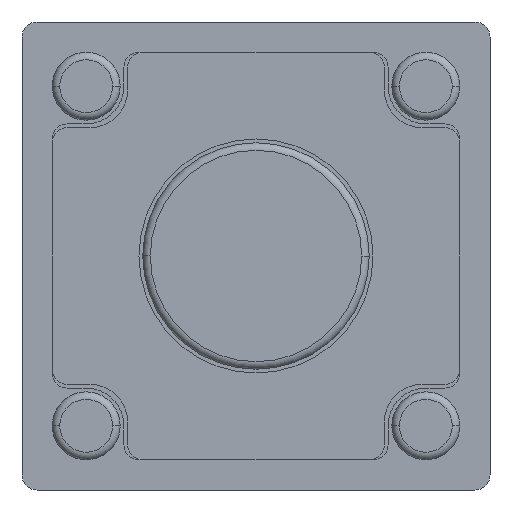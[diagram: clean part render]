
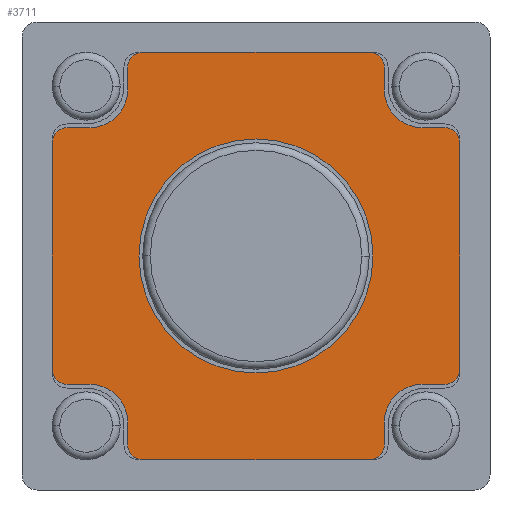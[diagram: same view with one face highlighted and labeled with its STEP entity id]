
A CAD part, front view. The second image highlights one B-rep face of the part: STEP entity #3711.
In plain terms, the highlighted planar face has unit normal (0, -1, 0).
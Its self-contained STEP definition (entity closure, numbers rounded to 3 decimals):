
#1518=CARTESIAN_POINT('',(0.,-1.8,0.));
#1519=DIRECTION('',(0.,1.,0.));
#1520=DIRECTION('',(-1.,0.,0.));
#1521=AXIS2_PLACEMENT_3D('',#1518,#1519,#1520);
#1526=CARTESIAN_POINT('',(0.,-1.8,0.));
#1527=DIRECTION('',(0.,1.,0.));
#1528=DIRECTION('',(1.,0.,0.));
#1529=AXIS2_PLACEMENT_3D('',#1526,#1527,#1528);
#1534=DIRECTION('',(1.,0.,0.));
#1535=VECTOR('',#1534,3.);
#1536=CARTESIAN_POINT('',(-1.5,-1.8,-2.7));
#1537=LINE('',#1536,#1535);
#1541=CARTESIAN_POINT('',(-1.5,-1.8,-2.5));
#1542=DIRECTION('',(0.,-1.,0.));
#1543=DIRECTION('',(-1.,0.,0.));
#1544=AXIS2_PLACEMENT_3D('',#1541,#1542,#1543);
#1549=DIRECTION('',(0.,0.,-1.));
#1550=VECTOR('',#1549,0.3);
#1551=CARTESIAN_POINT('',(-1.7,-1.8,-2.2));
#1552=LINE('',#1551,#1550);
#1556=CARTESIAN_POINT('',(-2.2,-1.8,-2.2));
#1557=DIRECTION('',(0.,1.,0.));
#1558=DIRECTION('',(0.,0.,1.));
#1559=AXIS2_PLACEMENT_3D('',#1556,#1557,#1558);
#1564=DIRECTION('',(1.,0.,0.));
#1565=VECTOR('',#1564,0.3);
#1566=CARTESIAN_POINT('',(-2.5,-1.8,-1.7));
#1567=LINE('',#1566,#1565);
#1571=CARTESIAN_POINT('',(-2.5,-1.8,-1.5));
#1572=DIRECTION('',(0.,-1.,0.));
#1573=DIRECTION('',(-1.,0.,0.));
#1574=AXIS2_PLACEMENT_3D('',#1571,#1572,#1573);
#1579=DIRECTION('',(0.,0.,-1.));
#1580=VECTOR('',#1579,3.);
#1581=CARTESIAN_POINT('',(-2.7,-1.8,1.5));
#1582=LINE('',#1581,#1580);
#1586=CARTESIAN_POINT('',(-2.5,-1.8,1.5));
#1587=DIRECTION('',(0.,-1.,0.));
#1588=DIRECTION('',(0.,0.,1.));
#1589=AXIS2_PLACEMENT_3D('',#1586,#1587,#1588);
#1594=DIRECTION('',(-1.,0.,0.));
#1595=VECTOR('',#1594,0.3);
#1596=CARTESIAN_POINT('',(-2.2,-1.8,1.7));
#1597=LINE('',#1596,#1595);
#1601=CARTESIAN_POINT('',(-2.2,-1.8,2.2));
#1602=DIRECTION('',(0.,1.,0.));
#1603=DIRECTION('',(1.,0.,0.));
#1604=AXIS2_PLACEMENT_3D('',#1601,#1602,#1603);
#1609=DIRECTION('',(0.,0.,-1.));
#1610=VECTOR('',#1609,0.3);
#1611=CARTESIAN_POINT('',(-1.7,-1.8,2.5));
#1612=LINE('',#1611,#1610);
#1616=CARTESIAN_POINT('',(-1.5,-1.8,2.5));
#1617=DIRECTION('',(0.,-1.,0.));
#1618=DIRECTION('',(0.,0.,1.));
#1619=AXIS2_PLACEMENT_3D('',#1616,#1617,#1618);
#1624=DIRECTION('',(-1.,0.,0.));
#1625=VECTOR('',#1624,3.);
#1626=CARTESIAN_POINT('',(1.5,-1.8,2.7));
#1627=LINE('',#1626,#1625);
#1631=CARTESIAN_POINT('',(1.5,-1.8,2.5));
#1632=DIRECTION('',(0.,-1.,0.));
#1633=DIRECTION('',(1.,0.,0.));
#1634=AXIS2_PLACEMENT_3D('',#1631,#1632,#1633);
#1639=DIRECTION('',(0.,0.,1.));
#1640=VECTOR('',#1639,0.3);
#1641=CARTESIAN_POINT('',(1.7,-1.8,2.2));
#1642=LINE('',#1641,#1640);
#1646=CARTESIAN_POINT('',(2.2,-1.8,2.2));
#1647=DIRECTION('',(0.,1.,0.));
#1648=DIRECTION('',(0.,0.,-1.));
#1649=AXIS2_PLACEMENT_3D('',#1646,#1647,#1648);
#1654=DIRECTION('',(-1.,0.,0.));
#1655=VECTOR('',#1654,0.3);
#1656=CARTESIAN_POINT('',(2.5,-1.8,1.7));
#1657=LINE('',#1656,#1655);
#1661=CARTESIAN_POINT('',(2.5,-1.8,1.5));
#1662=DIRECTION('',(0.,-1.,0.));
#1663=DIRECTION('',(1.,0.,0.));
#1664=AXIS2_PLACEMENT_3D('',#1661,#1662,#1663);
#1669=DIRECTION('',(0.,0.,1.));
#1670=VECTOR('',#1669,3.);
#1671=CARTESIAN_POINT('',(2.7,-1.8,-1.5));
#1672=LINE('',#1671,#1670);
#1676=CARTESIAN_POINT('',(2.5,-1.8,-1.5));
#1677=DIRECTION('',(0.,-1.,0.));
#1678=DIRECTION('',(0.,0.,-1.));
#1679=AXIS2_PLACEMENT_3D('',#1676,#1677,#1678);
#1684=DIRECTION('',(1.,0.,0.));
#1685=VECTOR('',#1684,0.3);
#1686=CARTESIAN_POINT('',(2.2,-1.8,-1.7));
#1687=LINE('',#1686,#1685);
#1691=CARTESIAN_POINT('',(2.2,-1.8,-2.2));
#1692=DIRECTION('',(0.,1.,0.));
#1693=DIRECTION('',(-1.,0.,0.));
#1694=AXIS2_PLACEMENT_3D('',#1691,#1692,#1693);
#1699=DIRECTION('',(0.,0.,1.));
#1700=VECTOR('',#1699,0.3);
#1701=CARTESIAN_POINT('',(1.7,-1.8,-2.5));
#1702=LINE('',#1701,#1700);
#1706=CARTESIAN_POINT('',(1.5,-1.8,-2.5));
#1707=DIRECTION('',(0.,-1.,0.));
#1708=DIRECTION('',(0.,0.,-1.));
#1709=AXIS2_PLACEMENT_3D('',#1706,#1707,#1708);
#2100=CARTESIAN_POINT('',(1.55,-1.8,0.));
#2101=CARTESIAN_POINT('',(-1.55,-1.8,0.));
#2102=VERTEX_POINT('',#2100);
#2103=VERTEX_POINT('',#2101);
#2114=CARTESIAN_POINT('',(-1.5,-1.8,-2.7));
#2115=CARTESIAN_POINT('',(1.5,-1.8,-2.7));
#2116=VERTEX_POINT('',#2114);
#2117=VERTEX_POINT('',#2115);
#2118=CARTESIAN_POINT('',(1.7,-1.8,-2.5));
#2119=VERTEX_POINT('',#2118);
#2120=CARTESIAN_POINT('',(1.7,-1.8,-2.2));
#2121=VERTEX_POINT('',#2120);
#2122=CARTESIAN_POINT('',(2.2,-1.8,-1.7));
#2123=VERTEX_POINT('',#2122);
#2124=CARTESIAN_POINT('',(2.5,-1.8,-1.7));
#2125=VERTEX_POINT('',#2124);
#2126=CARTESIAN_POINT('',(2.7,-1.8,-1.5));
#2127=VERTEX_POINT('',#2126);
#2128=CARTESIAN_POINT('',(2.7,-1.8,1.5));
#2129=VERTEX_POINT('',#2128);
#2130=CARTESIAN_POINT('',(2.5,-1.8,1.7));
#2131=VERTEX_POINT('',#2130);
#2132=CARTESIAN_POINT('',(2.2,-1.8,1.7));
#2133=VERTEX_POINT('',#2132);
#2134=CARTESIAN_POINT('',(1.7,-1.8,2.2));
#2135=VERTEX_POINT('',#2134);
#2136=CARTESIAN_POINT('',(1.7,-1.8,2.5));
#2137=VERTEX_POINT('',#2136);
#2138=CARTESIAN_POINT('',(1.5,-1.8,2.7));
#2139=VERTEX_POINT('',#2138);
#2140=CARTESIAN_POINT('',(-1.5,-1.8,2.7));
#2141=VERTEX_POINT('',#2140);
#2142=CARTESIAN_POINT('',(-1.7,-1.8,2.5));
#2143=VERTEX_POINT('',#2142);
#2144=CARTESIAN_POINT('',(-1.7,-1.8,2.2));
#2145=VERTEX_POINT('',#2144);
#2146=CARTESIAN_POINT('',(-2.2,-1.8,1.7));
#2147=VERTEX_POINT('',#2146);
#2148=CARTESIAN_POINT('',(-2.5,-1.8,1.7));
#2149=VERTEX_POINT('',#2148);
#2150=CARTESIAN_POINT('',(-2.7,-1.8,1.5));
#2151=VERTEX_POINT('',#2150);
#2152=CARTESIAN_POINT('',(-2.7,-1.8,-1.5));
#2153=VERTEX_POINT('',#2152);
#2154=CARTESIAN_POINT('',(-2.5,-1.8,-1.7));
#2155=VERTEX_POINT('',#2154);
#2156=CARTESIAN_POINT('',(-2.2,-1.8,-1.7));
#2157=VERTEX_POINT('',#2156);
#2158=CARTESIAN_POINT('',(-1.7,-1.8,-2.2));
#2159=VERTEX_POINT('',#2158);
#2160=CARTESIAN_POINT('',(-1.7,-1.8,-2.5));
#2161=VERTEX_POINT('',#2160);
#3652=CARTESIAN_POINT('',(0.,-1.8,0.));
#3653=DIRECTION('',(0.,1.,0.));
#3654=DIRECTION('',(1.,0.,0.));
#3655=AXIS2_PLACEMENT_3D('',#3652,#3653,#3654);
#3656=PLANE('',#3655);
#3658=ORIENTED_EDGE('',*,*,#3657,.F.);
#3660=ORIENTED_EDGE('',*,*,#3659,.F.);
#3662=ORIENTED_EDGE('',*,*,#3661,.F.);
#3664=ORIENTED_EDGE('',*,*,#3663,.F.);
#3666=ORIENTED_EDGE('',*,*,#3665,.F.);
#3668=ORIENTED_EDGE('',*,*,#3667,.F.);
#3670=ORIENTED_EDGE('',*,*,#3669,.F.);
#3672=ORIENTED_EDGE('',*,*,#3671,.F.);
#3674=ORIENTED_EDGE('',*,*,#3673,.F.);
#3676=ORIENTED_EDGE('',*,*,#3675,.F.);
#3678=ORIENTED_EDGE('',*,*,#3677,.F.);
#3680=ORIENTED_EDGE('',*,*,#3679,.F.);
#3682=ORIENTED_EDGE('',*,*,#3681,.F.);
#3684=ORIENTED_EDGE('',*,*,#3683,.F.);
#3686=ORIENTED_EDGE('',*,*,#3685,.F.);
#3688=ORIENTED_EDGE('',*,*,#3687,.F.);
#3690=ORIENTED_EDGE('',*,*,#3689,.F.);
#3692=ORIENTED_EDGE('',*,*,#3691,.F.);
#3694=ORIENTED_EDGE('',*,*,#3693,.F.);
#3696=ORIENTED_EDGE('',*,*,#3695,.F.);
#3698=ORIENTED_EDGE('',*,*,#3697,.F.);
#3700=ORIENTED_EDGE('',*,*,#3699,.F.);
#3702=ORIENTED_EDGE('',*,*,#3701,.F.);
#3704=ORIENTED_EDGE('',*,*,#3703,.F.);
#3705=EDGE_LOOP('',(#3658,#3660,#3662,#3664,#3666,#3668,#3670,#3672,#3674,#3676,
#3678,#3680,#3682,#3684,#3686,#3688,#3690,#3692,#3694,#3696,#3698,#3700,#3702,
#3704));
#3706=FACE_OUTER_BOUND('',#3705,.F.);
#3707=ORIENTED_EDGE('',*,*,#3647,.F.);
#3708=ORIENTED_EDGE('',*,*,#3631,.F.);
#3709=EDGE_LOOP('',(#3707,#3708));
#3710=FACE_BOUND('',#3709,.F.);
#1522=CIRCLE('',#1521,1.55);
#1530=CIRCLE('',#1529,1.55);
#1545=CIRCLE('',#1544,0.2);
#1560=CIRCLE('',#1559,0.5);
#1575=CIRCLE('',#1574,0.2);
#1590=CIRCLE('',#1589,0.2);
#1605=CIRCLE('',#1604,0.5);
#1620=CIRCLE('',#1619,0.2);
#1635=CIRCLE('',#1634,0.2);
#1650=CIRCLE('',#1649,0.5);
#1665=CIRCLE('',#1664,0.2);
#1680=CIRCLE('',#1679,0.2);
#1695=CIRCLE('',#1694,0.5);
#1710=CIRCLE('',#1709,0.2);
#3631=EDGE_CURVE('',#2102,#2103,#1530,.T.);
#3647=EDGE_CURVE('',#2103,#2102,#1522,.T.);
#3657=EDGE_CURVE('',#2116,#2117,#1537,.T.);
#3659=EDGE_CURVE('',#2161,#2116,#1545,.T.);
#3661=EDGE_CURVE('',#2159,#2161,#1552,.T.);
#3663=EDGE_CURVE('',#2157,#2159,#1560,.T.);
#3665=EDGE_CURVE('',#2155,#2157,#1567,.T.);
#3667=EDGE_CURVE('',#2153,#2155,#1575,.T.);
#3669=EDGE_CURVE('',#2151,#2153,#1582,.T.);
#3671=EDGE_CURVE('',#2149,#2151,#1590,.T.);
#3673=EDGE_CURVE('',#2147,#2149,#1597,.T.);
#3675=EDGE_CURVE('',#2145,#2147,#1605,.T.);
#3677=EDGE_CURVE('',#2143,#2145,#1612,.T.);
#3679=EDGE_CURVE('',#2141,#2143,#1620,.T.);
#3681=EDGE_CURVE('',#2139,#2141,#1627,.T.);
#3683=EDGE_CURVE('',#2137,#2139,#1635,.T.);
#3685=EDGE_CURVE('',#2135,#2137,#1642,.T.);
#3687=EDGE_CURVE('',#2133,#2135,#1650,.T.);
#3689=EDGE_CURVE('',#2131,#2133,#1657,.T.);
#3691=EDGE_CURVE('',#2129,#2131,#1665,.T.);
#3693=EDGE_CURVE('',#2127,#2129,#1672,.T.);
#3695=EDGE_CURVE('',#2125,#2127,#1680,.T.);
#3697=EDGE_CURVE('',#2123,#2125,#1687,.T.);
#3699=EDGE_CURVE('',#2121,#2123,#1695,.T.);
#3701=EDGE_CURVE('',#2119,#2121,#1702,.T.);
#3703=EDGE_CURVE('',#2117,#2119,#1710,.T.);
#3711=ADVANCED_FACE('',(#3706,#3710),#3656,.F.);
